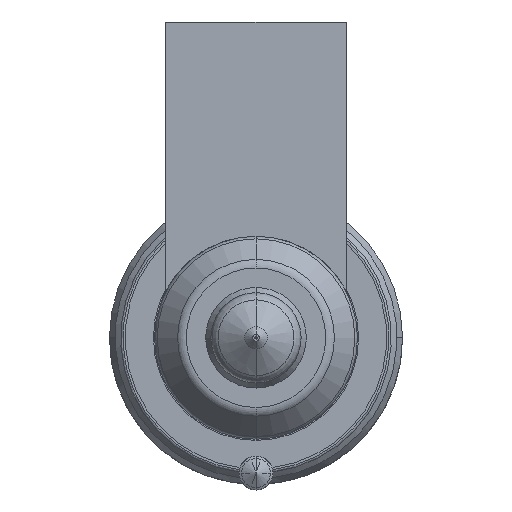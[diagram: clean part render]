
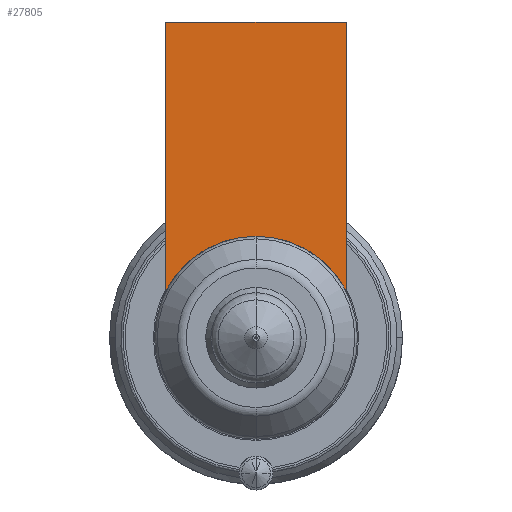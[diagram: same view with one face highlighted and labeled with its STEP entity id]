
A CAD part, front view. The second image highlights one B-rep face of the part: STEP entity #27805.
In plain terms, the highlighted planar face has unit normal (0, -1, 0).
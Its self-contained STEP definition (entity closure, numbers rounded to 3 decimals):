
#26986=DIRECTION('',(1.,0.,0.));
#26987=VECTOR('',#26986,16.);
#26988=CARTESIAN_POINT('',(-8.,-54.,28.));
#26989=LINE('',#26988,#26987);
#26994=CARTESIAN_POINT('',(0.,-54.,0.));
#26995=DIRECTION('',(0.,-1.,0.));
#26996=DIRECTION('',(0.889,0.,0.458));
#26997=AXIS2_PLACEMENT_3D('',#26994,#26995,#26996);
#27002=CARTESIAN_POINT('',(0.,-54.,0.));
#27003=DIRECTION('',(0.,-1.,0.));
#27004=DIRECTION('',(0.,0.,1.));
#27005=AXIS2_PLACEMENT_3D('',#27002,#27003,#27004);
#27031=DIRECTION('',(0.,0.,-1.));
#27032=VECTOR('',#27031,23.877);
#27033=CARTESIAN_POINT('',(-8.,-54.,28.));
#27034=LINE('',#27033,#27032);
#27657=DIRECTION('',(0.,0.,-1.));
#27658=VECTOR('',#27657,23.877);
#27659=CARTESIAN_POINT('',(8.,-54.,28.));
#27660=LINE('',#27659,#27658);
#27710=CARTESIAN_POINT('',(-8.,-54.,28.));
#27711=VERTEX_POINT('',#27710);
#27716=CARTESIAN_POINT('',(8.,-54.,28.));
#27717=VERTEX_POINT('',#27716);
#27720=CARTESIAN_POINT('',(-8.,-54.,4.123));
#27721=VERTEX_POINT('',#27720);
#27724=CARTESIAN_POINT('',(8.,-54.,4.123));
#27725=VERTEX_POINT('',#27724);
#27786=CARTESIAN_POINT('',(0.,-54.,9.));
#27787=VERTEX_POINT('',#27786);
#27788=CARTESIAN_POINT('',(0.,-54.,9.));
#27789=DIRECTION('',(0.,1.,0.));
#27790=DIRECTION('',(0.,0.,-1.));
#27791=AXIS2_PLACEMENT_3D('',#27788,#27789,#27790);
#27792=PLANE('',#27791);
#27794=ORIENTED_EDGE('',*,*,#27793,.F.);
#27796=ORIENTED_EDGE('',*,*,#27795,.T.);
#27798=ORIENTED_EDGE('',*,*,#27797,.T.);
#27800=ORIENTED_EDGE('',*,*,#27799,.T.);
#27802=ORIENTED_EDGE('',*,*,#27801,.T.);
#27803=EDGE_LOOP('',(#27794,#27796,#27798,#27800,#27802));
#27804=FACE_OUTER_BOUND('',#27803,.F.);
#27805=ADVANCED_FACE('',(#27804),#27792,.F.);
#26998=CIRCLE('',#26997,9.);
#27006=CIRCLE('',#27005,9.);
#27793=EDGE_CURVE('',#27711,#27721,#27034,.T.);
#27795=EDGE_CURVE('',#27711,#27717,#26989,.T.);
#27797=EDGE_CURVE('',#27717,#27725,#27660,.T.);
#27799=EDGE_CURVE('',#27725,#27787,#26998,.T.);
#27801=EDGE_CURVE('',#27787,#27721,#27006,.T.);
